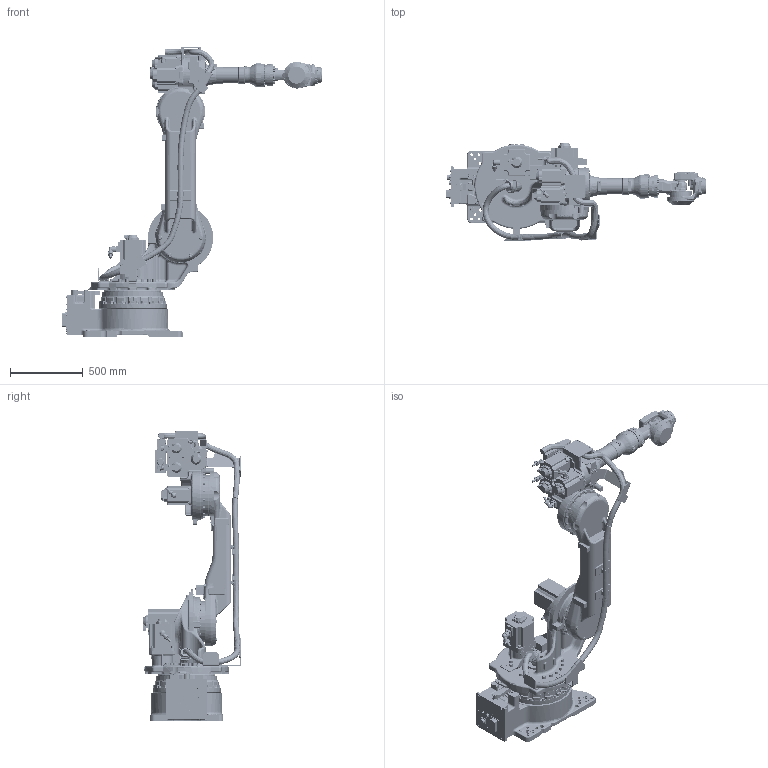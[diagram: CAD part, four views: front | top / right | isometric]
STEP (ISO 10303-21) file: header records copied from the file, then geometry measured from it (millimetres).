
FILE_DESCRIPTION(/* description */ (''),/* implementation_level */ '2;1');
FILE_NAME(/* name */ 'GA50.stp',/* time_stamp */ '2021-12-13T19:43:21+01:00',/* author */ (''),/* organization */ (''),/* preprocessor_version */ 'ST-DEVELOPER v16.7',/* originating_system */ 'SIEMENS PLM Software NX 1919',/* authorisation */ '');
FILE_SCHEMA (('AUTOMOTIVE_DESIGN { 1 0 10303 214 3 1 1 1 }'));
Products named in the file (8): T_VIEW_YR-1-06VXA50-A00; B_VIEW_YR-1-06VXA50-A00; R_VIEW_YR-1-06VXA50-A00; U_VIEW_YR-1-06VXA50-A00; L_VIEW_YR-1-06VXA50-A00; S_VIEW_YR-1-06VXA50-A00; BASE_VIEW_YR-1-06VXA50-A00; GA50
Assembly tree (7 placements, depth 2):
  GA50
    BASE_VIEW_YR-1-06VXA50-A00
    S_VIEW_YR-1-06VXA50-A00
    L_VIEW_YR-1-06VXA50-A00
    U_VIEW_YR-1-06VXA50-A00
    R_VIEW_YR-1-06VXA50-A00
    B_VIEW_YR-1-06VXA50-A00
    T_VIEW_YR-1-06VXA50-A00
Bounding box: 1791.85 x 680.4 x 1991 mm (x, y, z)
Volume: 201856736.5 mm3; surface area: 6961265.8 mm2
Topology: 7 solids, 13 shells, 10505 faces, 26510 edges, 16734 vertices
Faces by surface type: plane 4571, cylinder 3570, bspline 984, torus 714, cone 452, sphere 157, revolution 29, extrusion 28
Entity records: 410957 total; most frequent: CARTESIAN_POINT 143874, ORIENTED_EDGE 52878, DIRECTION 52342, EDGE_CURVE 26439, AXIS2_PLACEMENT_3D 19822, VERTEX_POINT 16725, VECTOR 12669, LINE 12641
